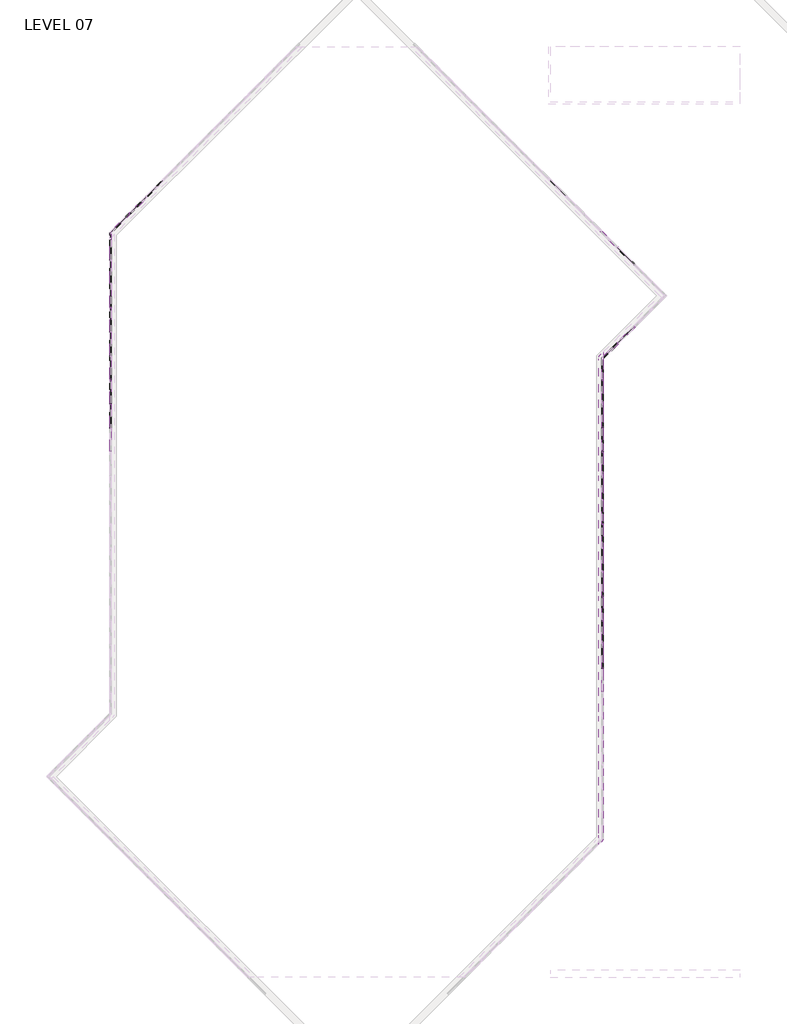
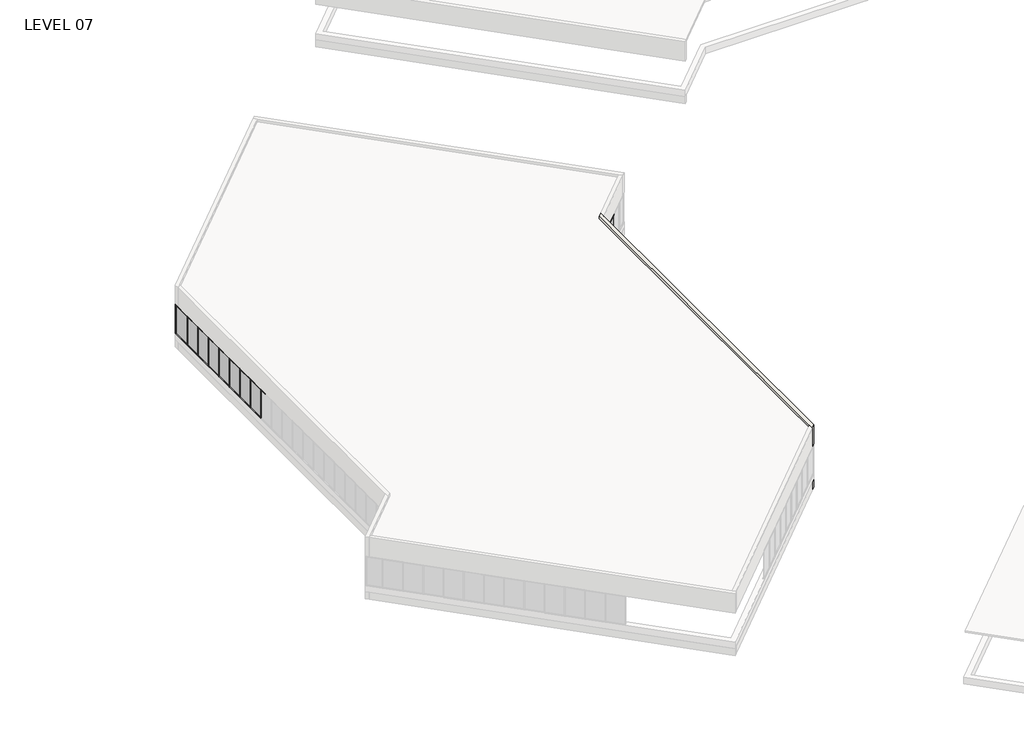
# One storey, part 5 of 18: 83 members, 27 plates, 2 walls.
"""IFC4 building model written with IfcOpenShell, lengths in millimetres."""

from ifc_helpers import new_model, si_unit, origin, place, context, project, spatial, faceted_brep, transform, mapped, element, save
from components import member_5247f267, member_e44af9ab, member_800970d4, member_45eb7f2e, member_1bd862b2, member_c975838b, plate_67294edd, plate_bbcbcabf, plate_9c66726c, plate_3fb62afd, plate_129ab9d0

model = new_model("IFC4")

# Units and contexts
model_context = context("Model", 3, world=origin())
ifc_project = project(units=[si_unit("LENGTHUNIT", "METRE", prefix="MILLI")], contexts=[model_context])

# Site, building, storey
site = spatial("IfcSite", under=ifc_project)
building = spatial("IfcBuilding", under=site)
storey = spatial("IfcBuildingStorey", under=building, Name="LEVEL 07", Elevation=23368.0)

# Members
placement = place(None, origin())
member_shape = member_5247f267(model_context)
element("IfcMember", 1, ObjectType="Rectangular Mullion : 2\" x 4.5\" rectangular", at=placement, inside=storey, context=model_context, shape_type="MappedRepresentation", body=[
    mapped(member_shape, transform((-32784.0347164, 64350.5675885, 25958.8), x_axis=(0.0, 0.0, 1.0), y_axis=(1.0, 0.0, 0.0), z_axis=(0.0, 1.0, 0.0))),
])
element("IfcMember", 2, ObjectType="Rectangular Mullion : 2\" x 4.5\" rectangular", at=placement, inside=storey, context=model_context, shape_type="MappedRepresentation", body=[
    mapped(member_shape, transform((-32784.0347164, 67398.5675885, 25958.8), x_axis=(0.0, 0.0, 1.0), y_axis=(1.0, 0.0, 0.0), z_axis=(0.0, 1.0, 0.0))),
])
element("IfcMember", 3, ObjectType="Rectangular Mullion : 2\" x 4.5\" rectangular", at=placement, inside=storey, context=model_context, shape_type="MappedRepresentation", body=[
    mapped(member_shape, transform((-32784.0347164, 71970.5675885, 25958.8), x_axis=(0.0, 0.0, 1.0), y_axis=(1.0, 0.0, 0.0), z_axis=(0.0, 1.0, 0.0))),
])
element("IfcMember", 4, ObjectType="Rectangular Mullion : 2\" x 4.5\" rectangular", at=placement, inside=storey, context=model_context, shape_type="MappedRepresentation", body=[
    mapped(member_shape, transform((-32784.0347164, 73494.5675885, 25958.8), x_axis=(0.0, 0.0, 1.0), y_axis=(1.0, 0.0, 0.0), z_axis=(0.0, 1.0, 0.0))),
])
element("IfcMember", 5, ObjectType="Rectangular Mullion : 2\" x 4.5\" rectangular", at=placement, inside=storey, context=model_context, shape_type="MappedRepresentation", body=[
    mapped(member_shape, transform((-32784.0347164, 65874.5675885, 25958.8), x_axis=(0.0, 0.0, 1.0), y_axis=(1.0, 0.0, 0.0), z_axis=(0.0, 1.0, 0.0))),
])
element("IfcMember", 6, ObjectType="Rectangular Mullion : 2\" x 4.5\" rectangular", at=placement, inside=storey, context=model_context, shape_type="MappedRepresentation", body=[
    mapped(member_shape, transform((-32784.0347164, 68922.5675885, 25958.8), x_axis=(0.0, 0.0, 1.0), y_axis=(1.0, 0.0, 0.0), z_axis=(0.0, 1.0, 0.0))),
])
element("IfcMember", 7, ObjectType="Rectangular Mullion : 2\" x 4.5\" rectangular", at=placement, inside=storey, context=model_context, shape_type="MappedRepresentation", body=[
    mapped(member_shape, transform((-32784.0347164, 70446.5675885, 25958.8), x_axis=(0.0, 0.0, 1.0), y_axis=(1.0, 0.0, 0.0), z_axis=(0.0, 1.0, 0.0))),
])
element("IfcMember", 8, ObjectType="Rectangular Mullion : 2\" x 4.5\" rectangular", at=placement, inside=storey, context=model_context, shape_type="MappedRepresentation", body=[
    mapped(member_shape, transform((-32784.0347164, 75018.5675885, 25958.8), x_axis=(0.0, 0.0, 1.0), y_axis=(1.0, 0.0, 0.0), z_axis=(0.0, 1.0, 0.0))),
])
element("IfcMember", 9, ObjectType="Rectangular Mullion : 2\" x 4.5\" rectangular", at=placement, inside=storey, context=model_context, shape_type="MappedRepresentation", body=[
    mapped(member_shape, transform((-30529.7405, 78987.9679405, 25958.8), x_axis=(0.0, 0.0, 1.0), y_axis=(0.7071067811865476, -0.7071067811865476, 0.0), z_axis=(0.7071067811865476, 0.7071067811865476, 0.0))),
])
element("IfcMember", 10, ObjectType="Rectangular Mullion : 2\" x 4.5\" rectangular", at=placement, inside=storey, context=model_context, shape_type="MappedRepresentation", body=[
    mapped(member_shape, transform((-669.3864263, 75791.175434, 25958.8), x_axis=(0.0, 0.0, 1.0), y_axis=(-0.7071067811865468, -0.7071067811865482, 0.0), z_axis=(0.7071067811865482, -0.7071067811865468, 0.0))),
])
element("IfcMember", 11, ObjectType="Rectangular Mullion : 2\" x 4.5\" rectangular", at=placement, inside=storey, context=model_context, shape_type="MappedRepresentation", body=[
    mapped(member_shape, transform((-633.4615109, 69760.6846584, 25958.8), x_axis=(0.0, 0.0, 1.0), y_axis=(-0.7071067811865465, 0.7071067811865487, 0.0), z_axis=(-0.7071067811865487, -0.7071067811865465, 0.0))),
])
element("IfcMember", 12, ObjectType="Rectangular Mullion : 2\" x 4.5\" rectangular", at=placement, inside=storey, context=model_context, shape_type="MappedRepresentation", body=[
    mapped(member_shape, transform((-1611.8847164, 49110.5675885, 25958.8), x_axis=(0.0, 0.0, 1.0), y_axis=(1.0, 0.0, 0.0), z_axis=(0.0, 1.0, 0.0))),
])
element("IfcMember", 13, ObjectType="Rectangular Mullion : 2\" x 4.5\" rectangular", at=placement, inside=storey, context=model_context, shape_type="MappedRepresentation", body=[
    mapped(member_shape, transform((-1611.8847164, 50634.5675885, 25958.8), x_axis=(0.0, 0.0, 1.0), y_axis=(1.0, 0.0, 0.0), z_axis=(0.0, 1.0, 0.0))),
])
element("IfcMember", 14, ObjectType="Rectangular Mullion : 2\" x 4.5\" rectangular", at=placement, inside=storey, context=model_context, shape_type="MappedRepresentation", body=[
    mapped(member_shape, transform((-1611.8847164, 52158.5675885, 25958.8), x_axis=(0.0, 0.0, 1.0), y_axis=(1.0, 0.0, 0.0), z_axis=(0.0, 1.0, 0.0))),
])
element("IfcMember", 15, ObjectType="Rectangular Mullion : 2\" x 4.5\" rectangular", at=placement, inside=storey, context=model_context, shape_type="MappedRepresentation", body=[
    mapped(member_shape, transform((-1611.8847164, 55206.5675885, 25958.8), x_axis=(0.0, 0.0, 1.0), y_axis=(1.0, 0.0, 0.0), z_axis=(0.0, 1.0, 0.0))),
])
element("IfcMember", 16, ObjectType="Rectangular Mullion : 2\" x 4.5\" rectangular", at=placement, inside=storey, context=model_context, shape_type="MappedRepresentation", body=[
    mapped(member_shape, transform((-1611.8847164, 56730.5675885, 25958.8), x_axis=(0.0, 0.0, 1.0), y_axis=(1.0, 0.0, 0.0), z_axis=(0.0, 1.0, 0.0))),
])
element("IfcMember", 17, ObjectType="Rectangular Mullion : 2\" x 4.5\" rectangular", at=placement, inside=storey, context=model_context, shape_type="MappedRepresentation", body=[
    mapped(member_shape, transform((-1611.8847164, 58254.5675885, 25958.8), x_axis=(0.0, 0.0, 1.0), y_axis=(1.0, 0.0, 0.0), z_axis=(0.0, 1.0, 0.0))),
])
element("IfcMember", 18, ObjectType="Rectangular Mullion : 2\" x 4.5\" rectangular", at=placement, inside=storey, context=model_context, shape_type="MappedRepresentation", body=[
    mapped(member_shape, transform((-1611.8847164, 59778.5675885, 25958.8), x_axis=(0.0, 0.0, 1.0), y_axis=(1.0, 0.0, 0.0), z_axis=(0.0, 1.0, 0.0))),
])
element("IfcMember", 19, ObjectType="Rectangular Mullion : 2\" x 4.5\" rectangular", at=placement, inside=storey, context=model_context, shape_type="MappedRepresentation", body=[
    mapped(member_shape, transform((-1611.8847164, 62826.5675885, 25958.8), x_axis=(0.0, 0.0, 1.0), y_axis=(1.0, 0.0, 0.0), z_axis=(0.0, 1.0, 0.0))),
])
element("IfcMember", 20, ObjectType="Rectangular Mullion : 2\" x 4.5\" rectangular", at=placement, inside=storey, context=model_context, shape_type="MappedRepresentation", body=[
    mapped(member_shape, transform((-1611.8847164, 64350.5675885, 25958.8), x_axis=(0.0, 0.0, 1.0), y_axis=(1.0, 0.0, 0.0), z_axis=(0.0, 1.0, 0.0))),
])
element("IfcMember", 21, ObjectType="Rectangular Mullion : 2\" x 4.5\" rectangular", at=placement, inside=storey, context=model_context, shape_type="MappedRepresentation", body=[
    mapped(member_shape, transform((-1611.8847164, 65874.5675885, 25958.8), x_axis=(0.0, 0.0, 1.0), y_axis=(1.0, 0.0, 0.0), z_axis=(0.0, 1.0, 0.0))),
])
element("IfcMember", 22, ObjectType="Rectangular Mullion : 2\" x 4.5\" rectangular", at=placement, inside=storey, context=model_context, shape_type="MappedRepresentation", body=[
    mapped(member_shape, transform((-1611.8847164, 67398.5675885, 25958.8), x_axis=(0.0, 0.0, 1.0), y_axis=(1.0, 0.0, 0.0), z_axis=(0.0, 1.0, 0.0))),
])
element("IfcMember", 23, ObjectType="Rectangular Mullion : 2\" x 4.5\" rectangular", at=placement, inside=storey, context=model_context, shape_type="MappedRepresentation", body=[
    mapped(member_shape, transform((-1611.8847164, 61302.5675885, 25958.8), x_axis=(0.0, 0.0, 1.0), y_axis=(1.0, 0.0, 0.0), z_axis=(0.0, 1.0, 0.0))),
])
element("IfcMember", 24, ObjectType="Rectangular Mullion : 2\" x 4.5\" rectangular", at=placement, inside=storey, context=model_context, shape_type="MappedRepresentation", body=[
    mapped(member_shape, transform((-1611.8847164, 53682.5675885, 25958.8), x_axis=(0.0, 0.0, 1.0), y_axis=(1.0, 0.0, 0.0), z_axis=(0.0, 1.0, 0.0))),
])
element("IfcMember", 25, ObjectType="Rectangular Mullion : 2\" x 4.5\" rectangular", at=placement, inside=storey, context=model_context, shape_type="MappedRepresentation", body=[
    mapped(member_shape, transform((-32784.0347164, 64401.3675885, 23368.0), x_axis=(0.0, 0.0, -1.0), y_axis=(1.0, 0.0, 0.0), z_axis=(0.0, -1.0, 0.0))),
])
element("IfcMember", 26, ObjectType="Rectangular Mullion : 2\" x 4.5\" rectangular", at=placement, inside=storey, context=model_context, shape_type="MappedRepresentation", body=[
    mapped(member_shape, transform((-32784.0347164, 67449.3675885, 23368.0), x_axis=(0.0, 0.0, -1.0), y_axis=(1.0, 0.0, 0.0), z_axis=(0.0, -1.0, 0.0))),
])
element("IfcMember", 27, ObjectType="Rectangular Mullion : 2\" x 4.5\" rectangular", at=placement, inside=storey, context=model_context, shape_type="MappedRepresentation", body=[
    mapped(member_shape, transform((-32784.0347164, 72021.3675885, 23368.0), x_axis=(0.0, 0.0, -1.0), y_axis=(1.0, 0.0, 0.0), z_axis=(0.0, -1.0, 0.0))),
])
element("IfcMember", 28, ObjectType="Rectangular Mullion : 2\" x 4.5\" rectangular", at=placement, inside=storey, context=model_context, shape_type="MappedRepresentation", body=[
    mapped(member_shape, transform((-32784.0347164, 73545.3675885, 23368.0), x_axis=(0.0, 0.0, -1.0), y_axis=(1.0, 0.0, 0.0), z_axis=(0.0, -1.0, 0.0))),
])
element("IfcMember", 29, ObjectType="Rectangular Mullion : 2\" x 4.5\" rectangular", at=placement, inside=storey, context=model_context, shape_type="MappedRepresentation", body=[
    mapped(member_shape, transform((-32784.0347164, 65925.3675885, 23368.0), x_axis=(0.0, 0.0, -1.0), y_axis=(1.0, 0.0, 0.0), z_axis=(0.0, -1.0, 0.0))),
])
element("IfcMember", 30, ObjectType="Rectangular Mullion : 2\" x 4.5\" rectangular", at=placement, inside=storey, context=model_context, shape_type="MappedRepresentation", body=[
    mapped(member_shape, transform((-32784.0347164, 68973.3675885, 23368.0), x_axis=(0.0, 0.0, -1.0), y_axis=(1.0, 0.0, 0.0), z_axis=(0.0, -1.0, 0.0))),
])
element("IfcMember", 31, ObjectType="Rectangular Mullion : 2\" x 4.5\" rectangular", at=placement, inside=storey, context=model_context, shape_type="MappedRepresentation", body=[
    mapped(member_shape, transform((-32784.0347164, 70497.3675885, 23368.0), x_axis=(0.0, 0.0, -1.0), y_axis=(1.0, 0.0, 0.0), z_axis=(0.0, -1.0, 0.0))),
])
element("IfcMember", 32, ObjectType="Rectangular Mullion : 2\" x 4.5\" rectangular", at=placement, inside=storey, context=model_context, shape_type="MappedRepresentation", body=[
    mapped(member_shape, transform((-31571.4502101, 77946.2582305, 23368.0), x_axis=(0.0, 0.0, -1.0), y_axis=(0.7071067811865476, -0.7071067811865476, 0.0), z_axis=(-0.7071067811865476, -0.7071067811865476, 0.0))),
])
element("IfcMember", 33, ObjectType="Rectangular Mullion : 2\" x 4.5\" rectangular", at=placement, inside=storey, context=model_context, shape_type="MappedRepresentation", body=[
    mapped(member_shape, transform((-30493.8194756, 79023.888965, 23368.0), x_axis=(0.0, 0.0, -1.0), y_axis=(0.7071067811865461, -0.707106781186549, 0.0), z_axis=(-0.707106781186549, -0.7071067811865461, 0.0))),
])
element("IfcMember", 34, ObjectType="Rectangular Mullion : 2\" x 4.5\" rectangular", at=placement, inside=storey, context=model_context, shape_type="MappedRepresentation", body=[
    mapped(member_shape, transform((-633.4654018, 75755.2544096, 23368.0), x_axis=(0.0, 0.0, -1.0), y_axis=(-0.7071067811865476, -0.7071067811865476, 0.0), z_axis=(-0.7071067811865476, 0.7071067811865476, 0.0))),
])
element("IfcMember", 35, ObjectType="Rectangular Mullion : 2\" x 4.5\" rectangular", at=placement, inside=storey, context=model_context, shape_type="MappedRepresentation", body=[
    mapped(member_shape, transform((-1611.8847164, 49161.3675885, 23368.0), x_axis=(0.0, 0.0, -1.0), y_axis=(1.0, 0.0, 0.0), z_axis=(0.0, -1.0, 0.0))),
])
element("IfcMember", 36, ObjectType="Rectangular Mullion : 2\" x 4.5\" rectangular", at=placement, inside=storey, context=model_context, shape_type="MappedRepresentation", body=[
    mapped(member_shape, transform((-1611.8847164, 50685.3675885, 23368.0), x_axis=(0.0, 0.0, -1.0), y_axis=(1.0, 0.0, 0.0), z_axis=(0.0, -1.0, 0.0))),
])
element("IfcMember", 37, ObjectType="Rectangular Mullion : 2\" x 4.5\" rectangular", at=placement, inside=storey, context=model_context, shape_type="MappedRepresentation", body=[
    mapped(member_shape, transform((-1611.8847164, 52209.3675885, 23368.0), x_axis=(0.0, 0.0, -1.0), y_axis=(1.0, 0.0, 0.0), z_axis=(0.0, -1.0, 0.0))),
])
element("IfcMember", 38, ObjectType="Rectangular Mullion : 2\" x 4.5\" rectangular", at=placement, inside=storey, context=model_context, shape_type="MappedRepresentation", body=[
    mapped(member_shape, transform((-1611.8847164, 55257.3675885, 23368.0), x_axis=(0.0, 0.0, -1.0), y_axis=(1.0, 0.0, 0.0), z_axis=(0.0, -1.0, 0.0))),
])
element("IfcMember", 39, ObjectType="Rectangular Mullion : 2\" x 4.5\" rectangular", at=placement, inside=storey, context=model_context, shape_type="MappedRepresentation", body=[
    mapped(member_shape, transform((-1611.8847164, 56781.3675885, 23368.0), x_axis=(0.0, 0.0, -1.0), y_axis=(1.0, 0.0, 0.0), z_axis=(0.0, -1.0, 0.0))),
])
element("IfcMember", 40, ObjectType="Rectangular Mullion : 2\" x 4.5\" rectangular", at=placement, inside=storey, context=model_context, shape_type="MappedRepresentation", body=[
    mapped(member_shape, transform((-1611.8847164, 58305.3675885, 23368.0), x_axis=(0.0, 0.0, -1.0), y_axis=(1.0, 0.0, 0.0), z_axis=(0.0, -1.0, 0.0))),
])
element("IfcMember", 41, ObjectType="Rectangular Mullion : 2\" x 4.5\" rectangular", at=placement, inside=storey, context=model_context, shape_type="MappedRepresentation", body=[
    mapped(member_shape, transform((-1611.8847164, 59829.3675885, 23368.0), x_axis=(0.0, 0.0, -1.0), y_axis=(1.0, 0.0, 0.0), z_axis=(0.0, -1.0, 0.0))),
])
element("IfcMember", 42, ObjectType="Rectangular Mullion : 2\" x 4.5\" rectangular", at=placement, inside=storey, context=model_context, shape_type="MappedRepresentation", body=[
    mapped(member_shape, transform((-1611.8847164, 62877.3675885, 23368.0), x_axis=(0.0, 0.0, -1.0), y_axis=(1.0, 0.0, 0.0), z_axis=(0.0, -1.0, 0.0))),
])
element("IfcMember", 43, ObjectType="Rectangular Mullion : 2\" x 4.5\" rectangular", at=placement, inside=storey, context=model_context, shape_type="MappedRepresentation", body=[
    mapped(member_shape, transform((-1611.8847164, 64401.3675885, 23368.0), x_axis=(0.0, 0.0, -1.0), y_axis=(1.0, 0.0, 0.0), z_axis=(0.0, -1.0, 0.0))),
])
element("IfcMember", 44, ObjectType="Rectangular Mullion : 2\" x 4.5\" rectangular", at=placement, inside=storey, context=model_context, shape_type="MappedRepresentation", body=[
    mapped(member_shape, transform((-1611.8847164, 65925.3675885, 23368.0), x_axis=(0.0, 0.0, -1.0), y_axis=(1.0, 0.0, 0.0), z_axis=(0.0, -1.0, 0.0))),
])
element("IfcMember", 45, ObjectType="Rectangular Mullion : 2\" x 4.5\" rectangular", at=placement, inside=storey, context=model_context, shape_type="MappedRepresentation", body=[
    mapped(member_shape, transform((-1611.8847164, 61353.3675885, 23368.0), x_axis=(0.0, 0.0, -1.0), y_axis=(1.0, 0.0, 0.0), z_axis=(0.0, -1.0, 0.0))),
])
element("IfcMember", 46, ObjectType="Rectangular Mullion : 2\" x 4.5\" rectangular", at=placement, inside=storey, context=model_context, shape_type="MappedRepresentation", body=[
    mapped(member_shape, transform((-1611.8847164, 53733.3675885, 23368.0), x_axis=(0.0, 0.0, -1.0), y_axis=(1.0, 0.0, 0.0), z_axis=(0.0, -1.0, 0.0))),
])
member_2_shape = member_e44af9ab(model_context)
element("IfcMember", 47, ObjectType="Rectangular Mullion : 2\" x 4.5\" rectangular", at=placement, inside=storey, context=model_context, shape_type="MappedRepresentation", body=[
    mapped(member_2_shape, transform((-32784.0347164, 64375.9675885, 23368.0), x_axis=(0.0, 1.0, 0.0), y_axis=(1.0, 0.0, 0.0), z_axis=(0.0, 0.0, -1.0))),
])
element("IfcMember", 48, ObjectType="Rectangular Mullion : 2\" x 4.5\" rectangular", at=placement, inside=storey, context=model_context, shape_type="MappedRepresentation", body=[
    mapped(member_2_shape, transform((-32784.0347164, 67423.9675885, 23368.0), x_axis=(0.0, 1.0, 0.0), y_axis=(1.0, 0.0, 0.0), z_axis=(0.0, 0.0, -1.0))),
])
element("IfcMember", 49, ObjectType="Rectangular Mullion : 2\" x 4.5\" rectangular", at=placement, inside=storey, context=model_context, shape_type="MappedRepresentation", body=[
    mapped(member_2_shape, transform((-32784.0347164, 71995.9675885, 23368.0), x_axis=(0.0, 1.0, 0.0), y_axis=(1.0, 0.0, 0.0), z_axis=(0.0, 0.0, -1.0))),
])
element("IfcMember", 50, ObjectType="Rectangular Mullion : 2\" x 4.5\" rectangular", at=placement, inside=storey, context=model_context, shape_type="MappedRepresentation", body=[
    mapped(member_2_shape, transform((-32784.0347164, 73519.9675885, 23368.0), x_axis=(0.0, 1.0, 0.0), y_axis=(1.0, 0.0, 0.0), z_axis=(0.0, 0.0, -1.0))),
])
element("IfcMember", 51, ObjectType="Rectangular Mullion : 2\" x 4.5\" rectangular", at=placement, inside=storey, context=model_context, shape_type="MappedRepresentation", body=[
    mapped(member_2_shape, transform((-32784.0347164, 65899.9675885, 23368.0), x_axis=(0.0, 1.0, 0.0), y_axis=(1.0, 0.0, 0.0), z_axis=(0.0, 0.0, -1.0))),
])
element("IfcMember", 52, ObjectType="Rectangular Mullion : 2\" x 4.5\" rectangular", at=placement, inside=storey, context=model_context, shape_type="MappedRepresentation", body=[
    mapped(member_2_shape, transform((-32784.0347164, 68947.9675885, 23368.0), x_axis=(0.0, 1.0, 0.0), y_axis=(1.0, 0.0, 0.0), z_axis=(0.0, 0.0, -1.0))),
])
element("IfcMember", 53, ObjectType="Rectangular Mullion : 2\" x 4.5\" rectangular", at=placement, inside=storey, context=model_context, shape_type="MappedRepresentation", body=[
    mapped(member_2_shape, transform((-32784.0347164, 70471.9675885, 23368.0), x_axis=(0.0, 1.0, 0.0), y_axis=(1.0, 0.0, 0.0), z_axis=(0.0, 0.0, -1.0))),
])
element("IfcMember", 54, ObjectType="Rectangular Mullion : 2\" x 4.5\" rectangular", at=placement, inside=storey, context=model_context, shape_type="MappedRepresentation", body=[
    mapped(member_2_shape, transform((-32784.0347164, 75043.9675885, 23368.0), x_axis=(0.0, 1.0, 0.0), y_axis=(1.0, 0.0, 0.0), z_axis=(0.0, 0.0, -1.0))),
])
element("IfcMember", 55, ObjectType="Rectangular Mullion : 2\" x 4.5\" rectangular", at=placement, inside=storey, context=model_context, shape_type="MappedRepresentation", body=[
    mapped(member_2_shape, transform((-31589.4107223, 77928.2977182, 23368.0), x_axis=(0.7071067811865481, 0.7071067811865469, 0.0), y_axis=(0.7071067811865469, -0.7071067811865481, 0.0), z_axis=(0.0, 0.0, -1.0))),
])
element("IfcMember", 56, ObjectType="Rectangular Mullion : 2\" x 4.5\" rectangular", at=placement, inside=storey, context=model_context, shape_type="MappedRepresentation", body=[
    mapped(member_2_shape, transform((-30511.7799878, 79005.9284527, 23368.0), x_axis=(0.7071067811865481, 0.7071067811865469, 0.0), y_axis=(0.7071067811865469, -0.7071067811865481, 0.0), z_axis=(0.0, 0.0, -1.0))),
])
element("IfcMember", 57, ObjectType="Rectangular Mullion : 2\" x 4.5\" rectangular", at=placement, inside=storey, context=model_context, shape_type="MappedRepresentation", body=[
    mapped(member_2_shape, transform((-651.4259141, 75773.2149218, 23368.0), x_axis=(0.707106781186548, -0.7071067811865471, 0.0), y_axis=(-0.7071067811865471, -0.707106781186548, 0.0), z_axis=(0.0, 0.0, -1.0))),
])
element("IfcMember", 58, ObjectType="Rectangular Mullion : 2\" x 4.5\" rectangular", at=placement, inside=storey, context=model_context, shape_type="MappedRepresentation", body=[
    mapped(member_2_shape, transform((-651.4220231, 69742.7241462, 23368.0), x_axis=(-0.707106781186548, -0.7071067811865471, 0.0), y_axis=(-0.7071067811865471, 0.707106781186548, 0.0), z_axis=(0.0, 0.0, -1.0))),
])
element("IfcMember", 59, ObjectType="Rectangular Mullion : 2\" x 4.5\" rectangular", at=placement, inside=storey, context=model_context, shape_type="MappedRepresentation", body=[
    mapped(member_2_shape, transform((-1611.8847164, 49135.9675885, 23368.0), x_axis=(0.0, 1.0, 0.0), y_axis=(1.0, 0.0, 0.0), z_axis=(0.0, 0.0, -1.0))),
])
element("IfcMember", 60, ObjectType="Rectangular Mullion : 2\" x 4.5\" rectangular", at=placement, inside=storey, context=model_context, shape_type="MappedRepresentation", body=[
    mapped(member_2_shape, transform((-1611.8847164, 50659.9675885, 23368.0), x_axis=(0.0, 1.0, 0.0), y_axis=(1.0, 0.0, 0.0), z_axis=(0.0, 0.0, -1.0))),
])
element("IfcMember", 61, ObjectType="Rectangular Mullion : 2\" x 4.5\" rectangular", at=placement, inside=storey, context=model_context, shape_type="MappedRepresentation", body=[
    mapped(member_2_shape, transform((-1611.8847164, 52183.9675885, 23368.0), x_axis=(0.0, 1.0, 0.0), y_axis=(1.0, 0.0, 0.0), z_axis=(0.0, 0.0, -1.0))),
])
element("IfcMember", 62, ObjectType="Rectangular Mullion : 2\" x 4.5\" rectangular", at=placement, inside=storey, context=model_context, shape_type="MappedRepresentation", body=[
    mapped(member_2_shape, transform((-1611.8847164, 55231.9675885, 23368.0), x_axis=(0.0, 1.0, 0.0), y_axis=(1.0, 0.0, 0.0), z_axis=(0.0, 0.0, -1.0))),
])
element("IfcMember", 63, ObjectType="Rectangular Mullion : 2\" x 4.5\" rectangular", at=placement, inside=storey, context=model_context, shape_type="MappedRepresentation", body=[
    mapped(member_2_shape, transform((-1611.8847164, 56755.9675885, 23368.0), x_axis=(0.0, 1.0, 0.0), y_axis=(1.0, 0.0, 0.0), z_axis=(0.0, 0.0, -1.0))),
])
element("IfcMember", 64, ObjectType="Rectangular Mullion : 2\" x 4.5\" rectangular", at=placement, inside=storey, context=model_context, shape_type="MappedRepresentation", body=[
    mapped(member_2_shape, transform((-1611.8847164, 58279.9675885, 23368.0), x_axis=(0.0, 1.0, 0.0), y_axis=(1.0, 0.0, 0.0), z_axis=(0.0, 0.0, -1.0))),
])
element("IfcMember", 65, ObjectType="Rectangular Mullion : 2\" x 4.5\" rectangular", at=placement, inside=storey, context=model_context, shape_type="MappedRepresentation", body=[
    mapped(member_2_shape, transform((-1611.8847164, 59803.9675885, 23368.0), x_axis=(0.0, 1.0, 0.0), y_axis=(1.0, 0.0, 0.0), z_axis=(0.0, 0.0, -1.0))),
])
element("IfcMember", 66, ObjectType="Rectangular Mullion : 2\" x 4.5\" rectangular", at=placement, inside=storey, context=model_context, shape_type="MappedRepresentation", body=[
    mapped(member_2_shape, transform((-1611.8847164, 62851.9675885, 23368.0), x_axis=(0.0, 1.0, 0.0), y_axis=(1.0, 0.0, 0.0), z_axis=(0.0, 0.0, -1.0))),
])
element("IfcMember", 67, ObjectType="Rectangular Mullion : 2\" x 4.5\" rectangular", at=placement, inside=storey, context=model_context, shape_type="MappedRepresentation", body=[
    mapped(member_2_shape, transform((-1611.8847164, 64375.9675885, 23368.0), x_axis=(0.0, 1.0, 0.0), y_axis=(1.0, 0.0, 0.0), z_axis=(0.0, 0.0, -1.0))),
])
element("IfcMember", 68, ObjectType="Rectangular Mullion : 2\" x 4.5\" rectangular", at=placement, inside=storey, context=model_context, shape_type="MappedRepresentation", body=[
    mapped(member_2_shape, transform((-1611.8847164, 65899.9675885, 23368.0), x_axis=(0.0, 1.0, 0.0), y_axis=(1.0, 0.0, 0.0), z_axis=(0.0, 0.0, -1.0))),
])
element("IfcMember", 69, ObjectType="Rectangular Mullion : 2\" x 4.5\" rectangular", at=placement, inside=storey, context=model_context, shape_type="MappedRepresentation", body=[
    mapped(member_2_shape, transform((-1611.8847164, 67423.9675885, 23368.0), x_axis=(0.0, 1.0, 0.0), y_axis=(1.0, 0.0, 0.0), z_axis=(0.0, 0.0, -1.0))),
])
element("IfcMember", 70, ObjectType="Rectangular Mullion : 2\" x 4.5\" rectangular", at=placement, inside=storey, context=model_context, shape_type="MappedRepresentation", body=[
    mapped(member_2_shape, transform((-1611.8847164, 61327.9675885, 23368.0), x_axis=(0.0, 1.0, 0.0), y_axis=(1.0, 0.0, 0.0), z_axis=(0.0, 0.0, -1.0))),
])
element("IfcMember", 71, ObjectType="Rectangular Mullion : 2\" x 4.5\" rectangular", at=placement, inside=storey, context=model_context, shape_type="MappedRepresentation", body=[
    mapped(member_2_shape, transform((-1611.8847164, 53707.9675885, 23368.0), x_axis=(0.0, 1.0, 0.0), y_axis=(1.0, 0.0, 0.0), z_axis=(0.0, 0.0, -1.0))),
])
member_3_shape = member_800970d4(model_context)
element("IfcMember", 72, ObjectType="Rectangular Mullion : 2\" x 4.5\" rectangular", at=placement, inside=storey, context=model_context, shape_type="MappedRepresentation", body=[
    mapped(member_3_shape, transform((-32784.0347164, 76733.6737241, 23368.0), x_axis=(0.0, 1.0, 0.0), y_axis=(1.0, 0.0, 0.0), z_axis=(0.0, 0.0, -1.0))),
])
element("IfcMember", 73, ObjectType="Rectangular Mullion : 2\" x 4.5\" rectangular", at=placement, inside=storey, context=model_context, shape_type="MappedRepresentation", body=[
    mapped(member_3_shape, transform((-1611.8847164, 68782.2614529, 23368.0), x_axis=(-0.707106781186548, -0.7071067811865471, 0.0), y_axis=(-0.7071067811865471, 0.707106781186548, 0.0), z_axis=(0.0, 0.0, -1.0))),
])
element("IfcMember", 74, ObjectType="Rectangular Mullion : 2\" x 4.5\" rectangular", at=placement, inside=storey, context=model_context, shape_type="MappedRepresentation", body=[
    mapped(member_3_shape, transform((-1611.8847164, 68782.2614529, 23368.0), x_axis=(0.0, 1.0, 0.0), y_axis=(1.0, 0.0, 0.0), z_axis=(0.0, 0.0, -1.0))),
])
element("IfcMember", 75, ObjectType="Rectangular Mullion : 2\" x 4.5\" rectangular", at=placement, inside=storey, context=model_context, shape_type="MappedRepresentation", body=[
    mapped(member_3_shape, transform((-32784.0347164, 76733.6737241, 25958.8), x_axis=(-0.7071067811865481, -0.7071067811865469, 0.0), y_axis=(0.7071067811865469, -0.7071067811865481, 0.0), z_axis=(0.0, 0.0, 1.0))),
])
member_4_shape = member_45eb7f2e(model_context)
element("IfcMember", 76, ObjectType="Rectangular Mullion : 2\" x 4.5\" rectangular", at=placement, inside=storey, context=model_context, shape_type="MappedRepresentation", body=[
    mapped(member_4_shape, transform((-1575.9636919, 68818.1824774, 25958.8), x_axis=(0.0, 0.0, 1.0), y_axis=(-0.7071067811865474, 0.7071067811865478, 0.0), z_axis=(-0.7071067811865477, -0.7071067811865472, 0.0))),
])
element("IfcMember", 77, ObjectType="Rectangular Mullion : 2\" x 4.5\" rectangular", at=placement, inside=storey, context=model_context, shape_type="MappedRepresentation", body=[
    mapped(member_4_shape, transform((-1611.8847164, 68731.4614529, 25958.8), x_axis=(0.0, 0.0, 1.0), y_axis=(1.0, 0.0, 0.0), z_axis=(0.0, 1.0, 0.0))),
])
member_5_shape = member_1bd862b2(model_context)
element("IfcMember", 78, ObjectType="Rectangular Mullion : 2\" x 4.5\" rectangular", at=placement, inside=storey, context=model_context, shape_type="MappedRepresentation", body=[
    mapped(member_5_shape, transform((-32784.0347164, 75069.3675885, 23368.0), x_axis=(0.0, 0.0, -1.0), y_axis=(1.0, 0.0, 0.0), z_axis=(0.0, -1.0, 0.0))),
])
element("IfcMember", 79, ObjectType="Rectangular Mullion : 2\" x 4.5\" rectangular", at=placement, inside=storey, context=model_context, shape_type="MappedRepresentation", body=[
    mapped(member_4_shape, transform((-669.3825354, 69724.7636339, 23368.0), x_axis=(0.0, 0.0, -1.0), y_axis=(-0.7071067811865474, 0.7071067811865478, 0.0), z_axis=(0.7071067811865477, 0.7071067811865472, 0.0))),
])
element("IfcMember", 80, ObjectType="Rectangular Mullion : 2\" x 4.5\" rectangular", at=placement, inside=storey, context=model_context, shape_type="MappedRepresentation", body=[
    mapped(member_4_shape, transform((-1611.8847164, 67449.3675885, 23368.0), x_axis=(0.0, 0.0, -1.0), y_axis=(1.0, 0.0, 0.0), z_axis=(0.0, -1.0, 0.0))),
])
element("IfcMember", 81, ObjectType="Rectangular Mullion : 2\" x 4.5\" rectangular", at=placement, inside=storey, context=model_context, shape_type="MappedRepresentation", body=[
    mapped(member_5_shape, transform((-32784.0347164, 76682.8737241, 25958.8), x_axis=(0.0, 0.0, 1.0), y_axis=(1.0, 0.0, 0.0), z_axis=(0.0, 1.0, 0.0))),
])
member_6_shape = member_c975838b(model_context)
element("IfcMember", 82, ObjectType="Rectangular Mullion : 2\" x 4.5\" rectangular", at=placement, inside=storey, context=model_context, shape_type="MappedRepresentation", body=[
    mapped(member_6_shape, transform((-32748.1136919, 76769.5947486, 23368.0), x_axis=(0.0, 0.0, -1.0), y_axis=(0.7071067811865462, -0.7071067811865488, 0.0), z_axis=(-0.7071067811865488, -0.7071067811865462, 0.0))),
])
element("IfcMember", 83, ObjectType="Rectangular Mullion : 2\" x 4.5\" rectangular", at=placement, inside=storey, context=model_context, shape_type="MappedRepresentation", body=[
    mapped(member_6_shape, transform((-31607.3712346, 77910.337206, 25958.8), x_axis=(0.0, 0.0, 1.0), y_axis=(0.7071067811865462, -0.7071067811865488, 0.0), z_axis=(0.7071067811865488, 0.7071067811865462, 0.0))),
])

# Plates
plate_shape = plate_67294edd(model_context)
element("IfcPlate", 84, ObjectType="System Panel : 1/4\" Glass", at=placement, inside=storey, context=model_context, shape_type="MappedRepresentation", body=[
    mapped(plate_shape, transform((-32784.0347164, 65137.9675885, 23418.8), x_axis=(0.0, 1.0, 0.0), y_axis=(-1.0, 0.0, 0.0), z_axis=(0.0, 0.0, 1.0))),
])
element("IfcPlate", 85, ObjectType="System Panel : 1/4\" Glass", at=placement, inside=storey, context=model_context, shape_type="MappedRepresentation", body=[
    mapped(plate_shape, transform((-32784.0347164, 68185.9675885, 23418.8), x_axis=(0.0, 1.0, 0.0), y_axis=(-1.0, 0.0, 0.0), z_axis=(0.0, 0.0, 1.0))),
])
element("IfcPlate", 86, ObjectType="System Panel : 1/4\" Glass", at=placement, inside=storey, context=model_context, shape_type="MappedRepresentation", body=[
    mapped(plate_shape, transform((-32784.0347164, 72757.9675885, 23418.8), x_axis=(0.0, 1.0, 0.0), y_axis=(-1.0, 0.0, 0.0), z_axis=(0.0, 0.0, 1.0))),
])
element("IfcPlate", 87, ObjectType="System Panel : 1/4\" Glass", at=placement, inside=storey, context=model_context, shape_type="MappedRepresentation", body=[
    mapped(plate_shape, transform((-32784.0347164, 74281.9675885, 23418.8), x_axis=(0.0, 1.0, 0.0), y_axis=(-1.0, 0.0, 0.0), z_axis=(0.0, 0.0, 1.0))),
])
element("IfcPlate", 88, ObjectType="System Panel : 1/4\" Glass", at=placement, inside=storey, context=model_context, shape_type="MappedRepresentation", body=[
    mapped(plate_shape, transform((-32784.0347164, 66661.9675885, 23418.8), x_axis=(0.0, 1.0, 0.0), y_axis=(-1.0, 0.0, 0.0), z_axis=(0.0, 0.0, 1.0))),
])
element("IfcPlate", 89, ObjectType="System Panel : 1/4\" Glass", at=placement, inside=storey, context=model_context, shape_type="MappedRepresentation", body=[
    mapped(plate_shape, transform((-32784.0347164, 69709.9675885, 23418.8), x_axis=(0.0, 1.0, 0.0), y_axis=(-1.0, 0.0, 0.0), z_axis=(0.0, 0.0, 1.0))),
])
element("IfcPlate", 90, ObjectType="System Panel : 1/4\" Glass", at=placement, inside=storey, context=model_context, shape_type="MappedRepresentation", body=[
    mapped(plate_shape, transform((-32784.0347164, 71233.9675885, 23418.8), x_axis=(0.0, 1.0, 0.0), y_axis=(-1.0, 0.0, 0.0), z_axis=(0.0, 0.0, 1.0))),
])
element("IfcPlate", 91, ObjectType="System Panel : 1/4\" Glass", at=placement, inside=storey, context=model_context, shape_type="MappedRepresentation", body=[
    mapped(plate_shape, transform((-31050.5953551, 78467.1130855, 23418.8), x_axis=(0.7071067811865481, 0.7071067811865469, 0.0), y_axis=(-0.7071067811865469, 0.7071067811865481, 0.0), z_axis=(0.0, 0.0, 1.0))),
])
element("IfcPlate", 92, ObjectType="System Panel : 1/4\" Glass", at=placement, inside=storey, context=model_context, shape_type="MappedRepresentation", body=[
    mapped(plate_shape, transform((-29972.9646205, 79544.74382, 23418.8), x_axis=(0.7071067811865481, 0.7071067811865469, 0.0), y_axis=(-0.7071067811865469, 0.7071067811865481, 0.0), z_axis=(0.0, 0.0, 1.0))),
])
element("IfcPlate", 93, ObjectType="System Panel : 1/4\" Glass", at=placement, inside=storey, context=model_context, shape_type="MappedRepresentation", body=[
    mapped(plate_shape, transform((-4423.1334849, 79544.9224927, 23418.8), x_axis=(0.707106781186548, -0.7071067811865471, 0.0), y_axis=(0.7071067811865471, 0.707106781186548, 0.0), z_axis=(0.0, 0.0, 1.0))),
])
element("IfcPlate", 94, ObjectType="System Panel : 1/4\" Glass", at=placement, inside=storey, context=model_context, shape_type="MappedRepresentation", body=[
    mapped(plate_shape, transform((-112.6105468, 75234.3995545, 23418.8), x_axis=(0.707106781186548, -0.7071067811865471, 0.0), y_axis=(0.7071067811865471, 0.707106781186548, 0.0), z_axis=(0.0, 0.0, 1.0))),
])
element("IfcPlate", 95, ObjectType="System Panel : 1/4\" Glass", at=placement, inside=storey, context=model_context, shape_type="MappedRepresentation", body=[
    mapped(plate_shape, transform((-112.6066559, 70281.5395134, 23418.8), x_axis=(-0.707106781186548, -0.7071067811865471, 0.0), y_axis=(0.7071067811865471, -0.707106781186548, 0.0), z_axis=(0.0, 0.0, 1.0))),
])
element("IfcPlate", 96, ObjectType="System Panel : 1/4\" Glass", at=placement, inside=storey, context=model_context, shape_type="MappedRepresentation", body=[
    mapped(plate_shape, transform((-1611.8847164, 51421.9675885, 23418.8), x_axis=(0.0, 1.0, 0.0), y_axis=(-1.0, 0.0, 0.0), z_axis=(0.0, 0.0, 1.0))),
])
element("IfcPlate", 97, ObjectType="System Panel : 1/4\" Glass", at=placement, inside=storey, context=model_context, shape_type="MappedRepresentation", body=[
    mapped(plate_shape, transform((-1611.8847164, 52945.9675885, 23418.8), x_axis=(0.0, 1.0, 0.0), y_axis=(-1.0, 0.0, 0.0), z_axis=(0.0, 0.0, 1.0))),
])
element("IfcPlate", 98, ObjectType="System Panel : 1/4\" Glass", at=placement, inside=storey, context=model_context, shape_type="MappedRepresentation", body=[
    mapped(plate_shape, transform((-1611.8847164, 55993.9675885, 23418.8), x_axis=(0.0, 1.0, 0.0), y_axis=(-1.0, 0.0, 0.0), z_axis=(0.0, 0.0, 1.0))),
])
element("IfcPlate", 99, ObjectType="System Panel : 1/4\" Glass", at=placement, inside=storey, context=model_context, shape_type="MappedRepresentation", body=[
    mapped(plate_shape, transform((-1611.8847164, 57517.9675885, 23418.8), x_axis=(0.0, 1.0, 0.0), y_axis=(-1.0, 0.0, 0.0), z_axis=(0.0, 0.0, 1.0))),
])
element("IfcPlate", 100, ObjectType="System Panel : 1/4\" Glass", at=placement, inside=storey, context=model_context, shape_type="MappedRepresentation", body=[
    mapped(plate_shape, transform((-1611.8847164, 59041.9675885, 23418.8), x_axis=(0.0, 1.0, 0.0), y_axis=(-1.0, 0.0, 0.0), z_axis=(0.0, 0.0, 1.0))),
])
element("IfcPlate", 101, ObjectType="System Panel : 1/4\" Glass", at=placement, inside=storey, context=model_context, shape_type="MappedRepresentation", body=[
    mapped(plate_shape, transform((-1611.8847164, 60565.9675885, 23418.8), x_axis=(0.0, 1.0, 0.0), y_axis=(-1.0, 0.0, 0.0), z_axis=(0.0, 0.0, 1.0))),
])
element("IfcPlate", 102, ObjectType="System Panel : 1/4\" Glass", at=placement, inside=storey, context=model_context, shape_type="MappedRepresentation", body=[
    mapped(plate_shape, transform((-1611.8847164, 63613.9675885, 23418.8), x_axis=(0.0, 1.0, 0.0), y_axis=(-1.0, 0.0, 0.0), z_axis=(0.0, 0.0, 1.0))),
])
element("IfcPlate", 103, ObjectType="System Panel : 1/4\" Glass", at=placement, inside=storey, context=model_context, shape_type="MappedRepresentation", body=[
    mapped(plate_shape, transform((-1611.8847164, 65137.9675885, 23418.8), x_axis=(0.0, 1.0, 0.0), y_axis=(-1.0, 0.0, 0.0), z_axis=(0.0, 0.0, 1.0))),
])
element("IfcPlate", 104, ObjectType="System Panel : 1/4\" Glass", at=placement, inside=storey, context=model_context, shape_type="MappedRepresentation", body=[
    mapped(plate_shape, transform((-1611.8847164, 66661.9675885, 23418.8), x_axis=(0.0, 1.0, 0.0), y_axis=(-1.0, 0.0, 0.0), z_axis=(0.0, 0.0, 1.0))),
])
element("IfcPlate", 105, ObjectType="System Panel : 1/4\" Glass", at=placement, inside=storey, context=model_context, shape_type="MappedRepresentation", body=[
    mapped(plate_shape, transform((-1611.8847164, 62089.9675885, 23418.8), x_axis=(0.0, 1.0, 0.0), y_axis=(-1.0, 0.0, 0.0), z_axis=(0.0, 0.0, 1.0))),
])
element("IfcPlate", 106, ObjectType="System Panel : 1/4\" Glass", at=placement, inside=storey, context=model_context, shape_type="MappedRepresentation", body=[
    mapped(plate_shape, transform((-1611.8847164, 54469.9675885, 23418.8), x_axis=(0.0, 1.0, 0.0), y_axis=(-1.0, 0.0, 0.0), z_axis=(0.0, 0.0, 1.0))),
])
plate_2_shape = plate_bbcbcabf(model_context)
element("IfcPlate", 107, ObjectType="System Panel : 1/4\" Glass", at=placement, inside=storey, context=model_context, shape_type="MappedRepresentation", body=[
    mapped(plate_2_shape, transform((-32784.0347164, 75876.1206563, 23418.8), x_axis=(0.0, 1.0, 0.0), y_axis=(-1.0, 0.0, 0.0), z_axis=(0.0, 0.0, 1.0))),
])
plate_3_shape = plate_9c66726c(model_context)
element("IfcPlate", 108, ObjectType="System Panel : 1/4\" Glass", at=placement, inside=storey, context=model_context, shape_type="MappedRepresentation", body=[
    mapped(plate_3_shape, transform((-1611.8847164, 68090.4145207, 23418.8), x_axis=(0.0, 1.0, 0.0), y_axis=(-1.0, 0.0, 0.0), z_axis=(0.0, 0.0, 1.0))),
])
plate_4_shape = plate_3fb62afd(model_context)
element("IfcPlate", 109, ObjectType="System Panel : 1/4\" Glass", at=placement, inside=storey, context=model_context, shape_type="MappedRepresentation", body=[
    mapped(plate_4_shape, transform((-32177.7424632, 77339.9659773, 23418.8), x_axis=(0.7071067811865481, 0.7071067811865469, 0.0), y_axis=(-0.7071067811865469, 0.7071067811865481, 0.0), z_axis=(0.0, 0.0, 1.0))),
])
plate_5_shape = plate_129ab9d0(model_context)
element("IfcPlate", 110, ObjectType="System Panel : 1/4\" Glass", at=placement, inside=storey, context=model_context, shape_type="MappedRepresentation", body=[
    mapped(plate_5_shape, transform((-1122.6731136, 69271.4730556, 23418.8), x_axis=(-0.707106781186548, -0.7071067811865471, 0.0), y_axis=(0.7071067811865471, -0.707106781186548, 0.0), z_axis=(0.0, 0.0, 1.0))),
])

# Walls
element("IfcWall", 111, ObjectType="01-CONCRETE-12", at=placement, inside=storey, context=model_context, shape_type="Brep", body=[
    faceted_brep([(-1554.7347164, 38278.5891478, 22186.9), (-1554.7347164, 68758.5891478, 22186.9), (-1554.7347164, 69189.6414416, 22186.9), (-1554.7347164, 69189.6414416, 22809.2), (-1554.7347164, 68758.5891478, 22809.2), (-1554.7347164, 38278.5891478, 22809.2), (-1859.5347164, 37973.7891478, 22186.9), (-1859.5347164, 37973.7891478, 22809.2), (-1859.5347164, 38404.8414416, 22809.2), (-1859.5347164, 38687.1039803, 22809.2), (-1859.5347164, 45783.1675885, 22809.2), (-1859.5347164, 46392.7675885, 22809.2), (-1859.5347164, 53403.1675885, 22809.2), (-1859.5347164, 54012.7675885, 22809.2), (-1859.5347164, 61023.1675885, 22809.2), (-1859.5347164, 61632.7675885, 22809.2), (-1859.5347164, 68643.1675885, 22809.2), (-1859.5347164, 68884.8414416, 22809.2), (-1859.5347164, 68884.8414416, 22186.9), (-1859.5347164, 68643.1675885, 22186.9), (-1859.5347164, 61632.7675885, 22186.9), (-1859.5347164, 61023.1675885, 22186.9), (-1859.5347164, 54012.7675885, 22186.9), (-1859.5347164, 53403.1675885, 22186.9), (-1859.5347164, 46392.7675885, 22186.9), (-1859.5347164, 45783.1675885, 22186.9), (-1859.5347164, 38687.1039803, 22186.9), (-1859.5347164, 38404.8414416, 22186.9), (-1808.7347164, 68935.6414416, 22186.9), (-1808.7347164, 68935.6414416, 22809.2)], [[[0, 1, 2, 3, 4, 5]], [[6, 7, 8, 9, 10, 11, 12, 13, 14, 15, 16, 17, 18, 19, 20, 21, 22, 23, 24, 25, 26, 27]], [[2, 1, 0, 6, 27, 26, 25, 24, 23, 22, 21, 20, 19, 18, 28]], [[5, 4, 3, 29, 17, 16, 15, 14, 13, 12, 11, 10, 9, 8, 7]], [[3, 2, 28, 18, 17, 29]], [[0, 5, 7, 6]]]),
])
element("IfcWall", 112, ObjectType="01-CONCRETE-12", at=placement, inside=storey, context=model_context, shape_type="Brep", body=[
    faceted_brep([(-1554.7347164, 38278.5891478, 25958.8), (-1554.7347164, 68758.5891478, 25958.8), (-1554.7347164, 69189.6414416, 25958.8), (-1554.7347164, 69189.6414416, 27673.3), (-1554.7347164, 68758.5891478, 27673.3), (-1554.7347164, 38278.5891478, 27673.3), (-1859.5347164, 37973.7891478, 25958.8), (-1859.5347164, 37973.7891478, 27673.3), (-1859.5347164, 38404.8414416, 27673.3), (-1859.5347164, 68884.8414416, 27673.3), (-1859.5347164, 68884.8414416, 26111.2), (-1859.5347164, 68884.8414416, 25958.8), (-1859.5347164, 68643.1675885, 25958.8), (-1859.5347164, 61632.7675885, 25958.8), (-1859.5347164, 61023.1675885, 25958.8), (-1859.5347164, 54012.7675885, 25958.8), (-1859.5347164, 53403.1675885, 25958.8), (-1859.5347164, 46392.7675885, 25958.8), (-1859.5347164, 45783.1675885, 25958.8), (-1859.5347164, 38687.1039803, 25958.8), (-1859.5347164, 38404.8414416, 25958.8), (-1808.7347164, 68935.6414416, 25958.8)], [[[0, 1, 2, 3, 4, 5]], [[6, 7, 8, 9, 10, 11, 12, 13, 14, 15, 16, 17, 18, 19, 20]], [[2, 1, 0, 6, 20, 19, 18, 17, 16, 15, 14, 13, 12, 11, 21]], [[5, 4, 3, 9, 8, 7]], [[3, 2, 21, 11, 10, 9]], [[0, 5, 7, 6]]]),
])

save(model, "model.ifc")
